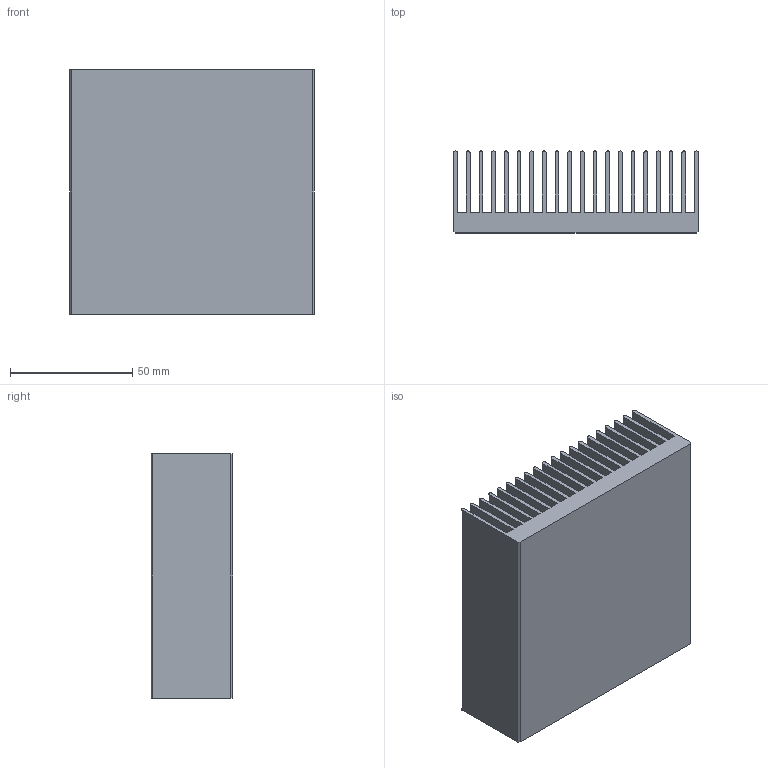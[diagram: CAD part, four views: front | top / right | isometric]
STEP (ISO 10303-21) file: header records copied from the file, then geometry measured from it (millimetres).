
FILE_DESCRIPTION (( 'STEP AP203' ), '1' );
FILE_NAME ('PR399.STEP', '2018-02-16T09:36:19', ( '' ), ( '' ), 'SwSTEP 2.0', 'SolidWorks 2018', '' );
FILE_SCHEMA (( 'CONFIG_CONTROL_DESIGN' ));
Length unit declared in the file: millimetre
Products named in the file (1): PR399
Bounding box: 99.92 x 33.4 x 100 mm (x, y, z)
Volume: 158385.9 mm3; surface area: 123450.4 mm2
Topology: 1 solids, 1 shells, 84 faces, 246 edges, 164 vertices
Faces by surface type: plane 64, cylinder 20
Entity records: 2847 total; most frequent: CARTESIAN_POINT 495, ORIENTED_EDGE 492, DIRECTION 456, EDGE_CURVE 246, VECTOR 206, LINE 206, VERTEX_POINT 164, AXIS2_PLACEMENT_3D 125
